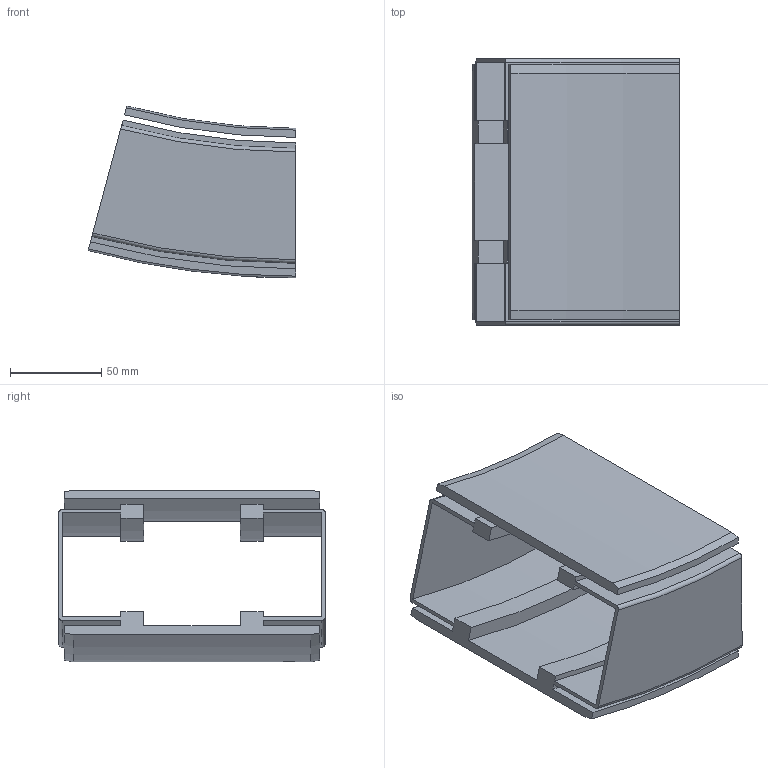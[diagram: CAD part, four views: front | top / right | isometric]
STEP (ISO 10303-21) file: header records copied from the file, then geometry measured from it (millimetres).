
FILE_DESCRIPTION(/* description */ ('VERTIKALKURVA S540 R400'),/* implementation_level */ '2;1');
FILE_NAME(/* name */ '540-5645+140-2000-NER-01.stp',/* time_stamp */ '2022-09-21T10:44:36+02:00',/* author */ ('Mathias.Dore'),/* organization */ ('CARRYLINE'),/* preprocessor_version */ 'ST-DEVELOPER v19.2',/* originating_system */ 'Autodesk Inventor 2023',/* authorisation */ '');
FILE_SCHEMA (('AUTOMOTIVE_DESIGN { 1 0 10303 214 3 1 1 }'));
Length unit declared in the file: millimetre
Products named in the file (1): 540-5645+140-2000-NER-01
Bounding box: 113.75 x 146 x 94.18 mm (x, y, z)
Volume: 239737.4 mm3; surface area: 128218.1 mm2
Topology: 2 solids, 2 shells, 87 faces, 234 edges, 156 vertices
Faces by surface type: plane 40, cylinder 25, bspline 14, cone 4, torus 4
Entity records: 7378 total; most frequent: CARTESIAN_POINT 5179, ORIENTED_EDGE 468, DIRECTION 408, EDGE_CURVE 234, VERTEX_POINT 156, AXIS2_PLACEMENT_3D 141, LINE 126, VECTOR 126
